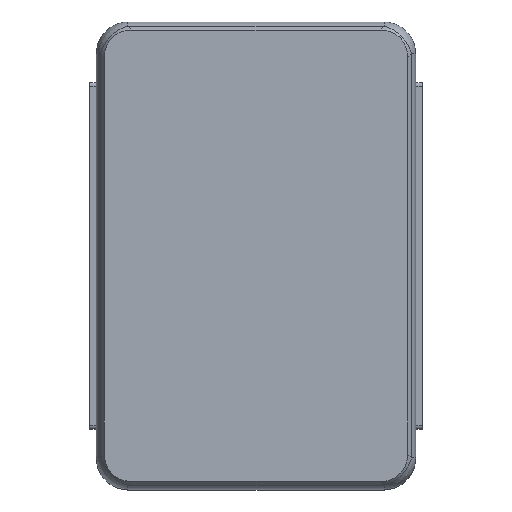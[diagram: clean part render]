
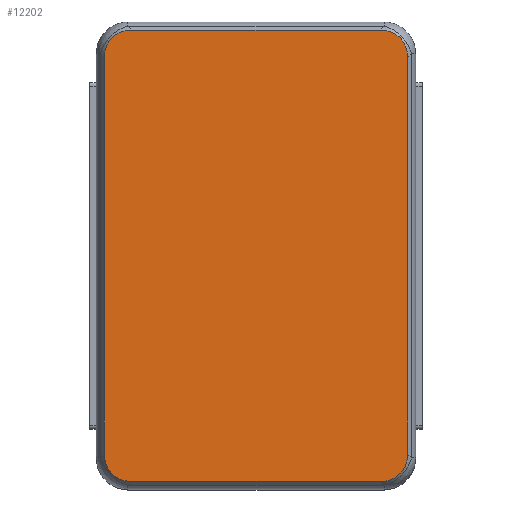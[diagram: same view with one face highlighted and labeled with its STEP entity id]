
A CAD part, top view. The second image highlights one B-rep face of the part: STEP entity #12202.
In plain terms, the highlighted planar face has unit normal (0, 0, 1).
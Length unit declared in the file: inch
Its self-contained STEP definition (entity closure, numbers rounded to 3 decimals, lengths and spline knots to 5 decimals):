
#79=CARTESIAN_POINT('',(4.42892,-5.79303,8.26772));
#80=VERTEX_POINT('',#79);
#81=CARTESIAN_POINT('',(4.42892,5.79303,8.26772));
#82=VERTEX_POINT('',#81);
#83=CARTESIAN_POINT('',(4.42892,-5.79303,8.26772));
#84=DIRECTION('',(0.0,1.0,0.0));
#85=VECTOR('',#84,11.58605);
#86=LINE('',#83,#85);
#87=EDGE_CURVE('',#80,#82,#86,.T.);
#119=CARTESIAN_POINT('',(3.62767,6.59427,8.26772));
#120=VERTEX_POINT('',#119);
#121=CARTESIAN_POINT('',(3.36059,5.52594,8.26772));
#122=DIRECTION('',(0.,0.,1.));
#123=DIRECTION('',(0.707,0.707,0.));
#124=AXIS2_PLACEMENT_3D('',#121,#122,#123);
#125=ELLIPSE('',#124,1.19442,0.9252);
#126=EDGE_CURVE('',#82,#120,#125,.T.);
#152=CARTESIAN_POINT('',(-3.62767,6.59427,8.26772));
#153=VERTEX_POINT('',#152);
#154=CARTESIAN_POINT('',(3.62767,6.59427,8.26772));
#155=DIRECTION('',(-1.0,0.0,0.0));
#156=VECTOR('',#155,7.25534);
#157=LINE('',#154,#156);
#158=EDGE_CURVE('',#120,#153,#157,.T.);
#183=CARTESIAN_POINT('',(-4.42892,5.79303,8.26772));
#184=VERTEX_POINT('',#183);
#185=CARTESIAN_POINT('',(-3.36059,5.52594,8.26772));
#186=DIRECTION('',(0.,0.,1.));
#187=DIRECTION('',(-0.707,0.707,0.));
#188=AXIS2_PLACEMENT_3D('',#185,#186,#187);
#189=ELLIPSE('',#188,1.19442,0.9252);
#190=EDGE_CURVE('',#153,#184,#189,.T.);
#11078=CARTESIAN_POINT('',(-3.62767,-6.59427,8.26772));
#11079=VERTEX_POINT('',#11078);
#11080=CARTESIAN_POINT('',(3.62767,-6.59427,8.26772));
#11081=VERTEX_POINT('',#11080);
#11082=CARTESIAN_POINT('',(-3.62767,-6.59427,8.26772));
#11083=DIRECTION('',(1.0,0.0,0.0));
#11084=VECTOR('',#11083,7.25534);
#11085=LINE('',#11082,#11084);
#11086=EDGE_CURVE('',#11079,#11081,#11085,.T.);
#11114=CARTESIAN_POINT('',(-4.42892,-5.79303,8.26772));
#11115=VERTEX_POINT('',#11114);
#11116=CARTESIAN_POINT('',(-4.42892,5.79303,8.26772));
#11117=DIRECTION('',(0.0,-1.0,0.0));
#11118=VECTOR('',#11117,11.58605);
#11119=LINE('',#11116,#11118);
#11120=EDGE_CURVE('',#184,#11115,#11119,.T.);
#11177=CARTESIAN_POINT('',(-3.36059,-5.52594,8.26772));
#11178=DIRECTION('',(0.,0.,1.));
#11179=DIRECTION('',(-0.707,-0.707,0.));
#11180=AXIS2_PLACEMENT_3D('',#11177,#11178,#11179);
#11181=ELLIPSE('',#11180,1.19442,0.9252);
#11182=EDGE_CURVE('',#11115,#11079,#11181,.T.);
#11195=CARTESIAN_POINT('',(3.36059,-5.52594,8.26772));
#11196=DIRECTION('',(0.,0.,1.0));
#11197=DIRECTION('',(0.707,-0.707,0.));
#11198=AXIS2_PLACEMENT_3D('',#11195,#11196,#11197);
#11199=ELLIPSE('',#11198,1.19442,0.9252);
#11200=EDGE_CURVE('',#11081,#80,#11199,.T.);
#12187=CARTESIAN_POINT('',(0.04703,-0.19323,8.26772));
#12188=DIRECTION('',(0.0,0.0,1.0));
#12189=DIRECTION('',(1.0,0.0,0.0));
#12190=AXIS2_PLACEMENT_3D('',#12187,#12188,#12189);
#12191=PLANE('',#12190);
#12192=ORIENTED_EDGE('',*,*,#11120,.T.);
#12193=ORIENTED_EDGE('',*,*,#11182,.T.);
#12194=ORIENTED_EDGE('',*,*,#11086,.T.);
#12195=ORIENTED_EDGE('',*,*,#11200,.T.);
#12196=ORIENTED_EDGE('',*,*,#87,.T.);
#12197=ORIENTED_EDGE('',*,*,#126,.T.);
#12198=ORIENTED_EDGE('',*,*,#158,.T.);
#12199=ORIENTED_EDGE('',*,*,#190,.T.);
#12200=EDGE_LOOP('',(#12192,#12193,#12194,#12195,#12196,#12197,#12198,#12199));
#12201=FACE_OUTER_BOUND('',#12200,.T.);
#12202=ADVANCED_FACE('',(#12201),#12191,.T.);
